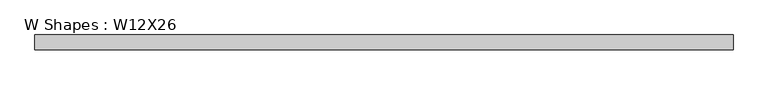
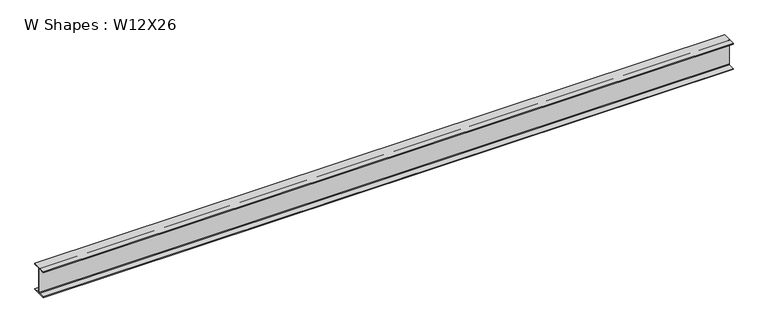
"""IFC4 building model written with IfcOpenShell, lengths in millimetres: beam geometry, W Shapes : W12X26."""

from ifc_helpers import new_model, si_unit, point, frame, frame_2d, origin, place, context, project, spatial, polyline, circle_curve, trimmed, segment, composite_curve, outline, extrude, source, transform, mapped, element, save


def w_shapes_w12x26_85c0d87e(model_context):
    return source(origin(), model_context, "Body", "SweptSolid", [
        extrude(outline(composite_curve([segment(polyline([(82.423, -145.288), (82.423, -154.94), (-82.423, -154.94), (-82.423, -145.288), (-10.541, -145.288)]), True, "CONTINUOUS"), segment(trimmed(circle_curve(frame_2d((-10.541, -137.668)), 7.62), [point((-10.541, -145.288))], [point((-2.921, -137.668))], True, "CARTESIAN"), True, "CONTINUOUS"), segment(polyline([(-2.921, -137.668), (-2.921, 137.668)]), True, "CONTINUOUS"), segment(trimmed(circle_curve(frame_2d((-10.541, 137.668)), 7.62), [point((-2.921, 137.668))], [point((-10.541, 145.288))], True, "CARTESIAN"), True, "CONTINUOUS"), segment(polyline([(-10.541, 145.288), (-82.423, 145.288), (-82.423, 154.94), (82.423, 154.94), (82.423, 145.288), (10.541, 145.288)]), True, "CONTINUOUS"), segment(trimmed(circle_curve(frame_2d((10.541, 137.668)), 7.62), [point((10.541, 145.288))], [point((2.921, 137.668))], True, "CARTESIAN"), True, "CONTINUOUS"), segment(polyline([(2.921, 137.668), (2.921, -137.668)]), True, "CONTINUOUS"), segment(trimmed(circle_curve(frame_2d((10.541, -137.668)), 7.62), [point((2.921, -137.668))], [point((10.541, -145.288))], True, "CARTESIAN"), True, "CONTINUOUS"), segment(polyline([(10.541, -145.288), (82.423, -145.288)]), True, "CONTINUOUS")], self_intersect=False)), frame((-3880.358, 0.0, 0.0), z_axis=(1.0, 0.0, 0.0), x_axis=(0.0, 1.0, 0.0)), (0.0, 0.0, 1.0), 7760.716),
    ])


if __name__ == "__main__":
    model = new_model("IFC4")
    model_context = context("Model", 3, world=origin())
    ifc_project = project(units=[si_unit("LENGTHUNIT", "METRE", prefix="MILLI")], contexts=[model_context])
    site = spatial("IfcSite", under=ifc_project)
    building = spatial("IfcBuilding", under=site)
    placement = place(None, origin())
    w_shapes_w12x26_shape = w_shapes_w12x26_85c0d87e(model_context)
    element("IfcBeam", 1, ObjectType="W Shapes : W12X26", at=placement, inside=building, context=model_context, shape_type="MappedRepresentation", body=[
        mapped(w_shapes_w12x26_shape, transform((0.0, 0.0, 0.0), x_axis=(1.0, 0.0, 0.0), y_axis=(0.0, 1.0, 0.0), z_axis=(0.0, 0.0, 1.0))),
    ])
    save(model, "model.ifc")
